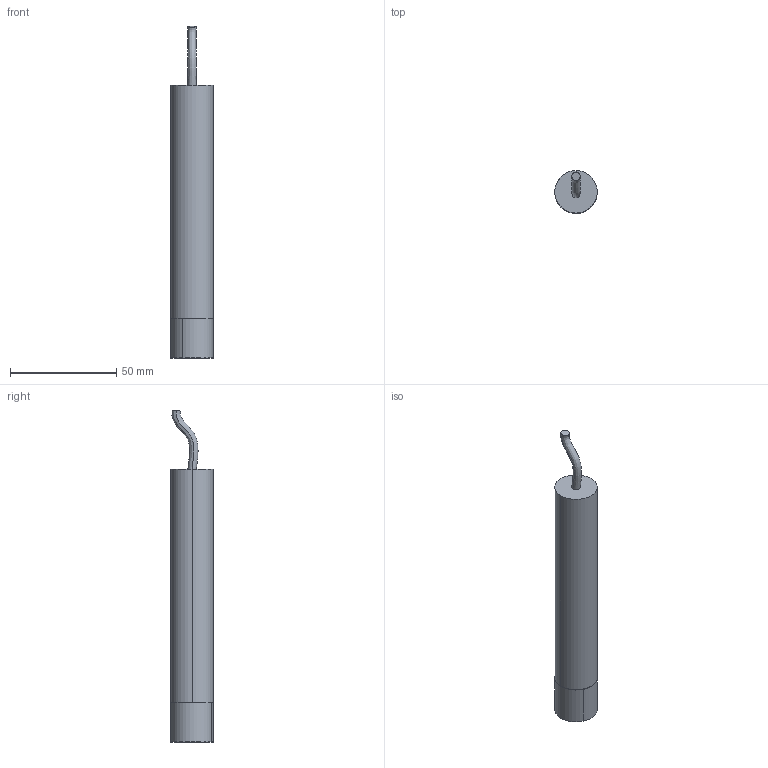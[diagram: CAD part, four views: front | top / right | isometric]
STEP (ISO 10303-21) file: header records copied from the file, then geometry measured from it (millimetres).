
FILE_DESCRIPTION (( 'STEP AP203' ), '1' );
FILE_NAME ('SENSORE LASER LT1S20 (CAVO A2-B2).STEP', '2021-06-09T11:15:22', ( '' ), ( '' ), 'SwSTEP 2.0', 'SolidWorks 2019', '' );
FILE_SCHEMA (( 'CONFIG_CONTROL_DESIGN' ));
Length unit declared in the file: millimetre
Products named in the file (3): 26619-10 - Protezione ottica Ø20 zigrinata - Anodizzato nero lucido_Default<A macchina>; SENSORE LASER LT1S20 (CAVO A2-B2); 26542-10 - Involucro Ø20 - Anodizzato nero lucido - PER ASSIEME_Default<A macchina>
Assembly tree (2 placements, depth 2):
  SENSORE LASER LT1S20 (CAVO A2-B2)
    26542-10 - Involucro Ø20 - Anodizzato nero lucido - PER ASSIEME_Default<A macchina>
    26619-10 - Protezione ottica Ø20 zigrinata - Anodizzato nero lucido_Default<A macchina>
Bounding box: 20 x 20 x 156.47 mm (x, y, z)
Volume: 10282.7 mm3; surface area: 16376.9 mm2
Topology: 2 solids, 2 shells, 44 faces, 86 edges, 52 vertices
Faces by surface type: cone 16, cylinder 16, plane 10, bspline 2
Entity records: 1747 total; most frequent: CARTESIAN_POINT 503, DIRECTION 230, ORIENTED_EDGE 172, AXIS2_PLACEMENT_3D 99, EDGE_CURVE 86, VERTEX_POINT 52, CIRCLE 52, EDGE_LOOP 52
